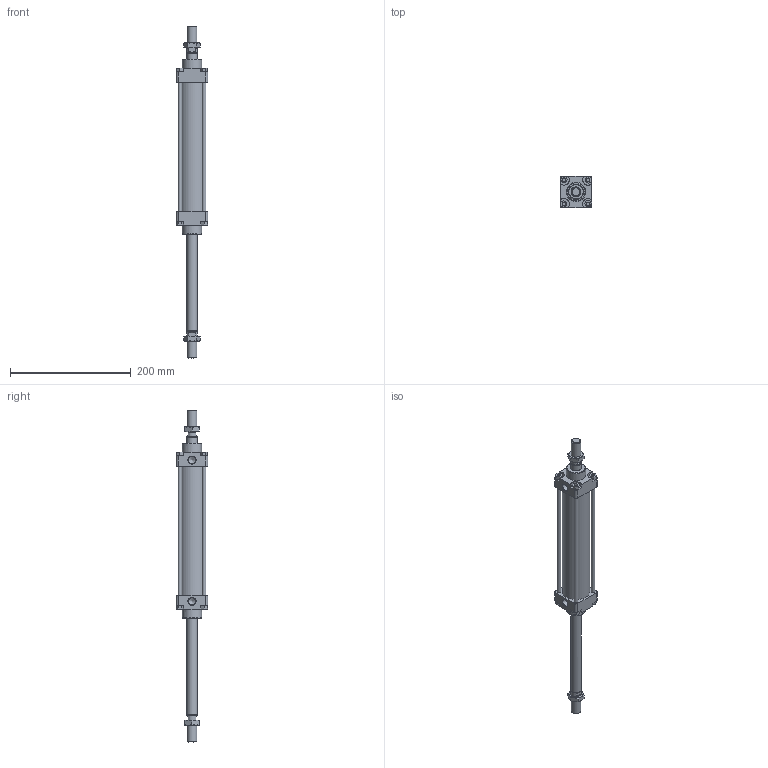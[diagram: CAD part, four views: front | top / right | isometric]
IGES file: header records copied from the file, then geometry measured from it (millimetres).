
Global section: file name: 1303_040_0150_02A; native system: Autodesk Inventor 2014; preprocessor: unknown; author: A. Manieri; date: 20161123.144242; units: millimetre
Bounding box: 52 x 52 x 550 mm (x, y, z)
Volume: 414956 mm3; surface area: 146913.7 mm2
Topology: 10 solids, 10 shells, 189 faces, 471 edges, 314 vertices
Faces by surface type: bspline 189
